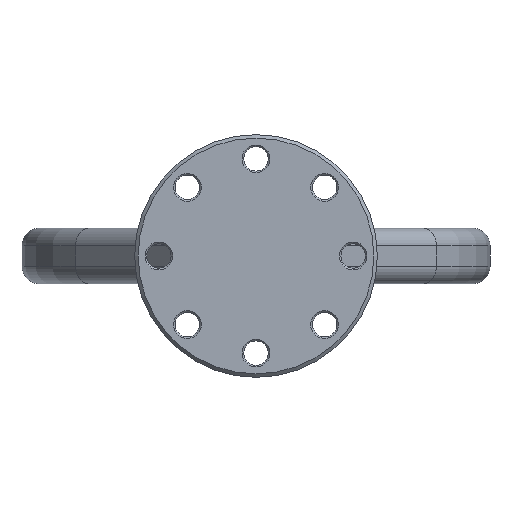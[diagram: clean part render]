
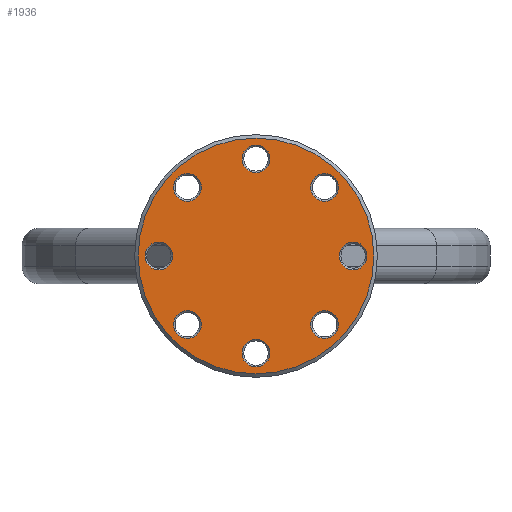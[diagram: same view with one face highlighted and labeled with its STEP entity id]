
A CAD part, front view. The second image highlights one B-rep face of the part: STEP entity #1936.
In plain terms, the highlighted planar face has unit normal (0, -1, 0).
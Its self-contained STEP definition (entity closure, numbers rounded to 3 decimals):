
#68=FACE_BOUND('',#261,.T.);
#69=FACE_BOUND('',#262,.T.);
#70=FACE_BOUND('',#263,.T.);
#71=FACE_BOUND('',#264,.T.);
#72=FACE_BOUND('',#265,.T.);
#73=FACE_BOUND('',#266,.T.);
#74=FACE_BOUND('',#267,.T.);
#75=FACE_BOUND('',#268,.T.);
#97=PLANE('',#2111);
#127=FACE_OUTER_BOUND('',#260,.T.);
#260=EDGE_LOOP('',(#1345));
#261=EDGE_LOOP('',(#1346));
#262=EDGE_LOOP('',(#1347));
#263=EDGE_LOOP('',(#1348));
#264=EDGE_LOOP('',(#1349));
#265=EDGE_LOOP('',(#1350));
#266=EDGE_LOOP('',(#1351));
#267=EDGE_LOOP('',(#1352));
#268=EDGE_LOOP('',(#1353));
#407=CIRCLE('',#2110,4.);
#408=CIRCLE('',#2112,34.);
#409=CIRCLE('',#2113,4.);
#410=CIRCLE('',#2114,4.);
#411=CIRCLE('',#2115,4.);
#412=CIRCLE('',#2116,4.);
#413=CIRCLE('',#2117,4.);
#414=CIRCLE('',#2118,4.);
#415=CIRCLE('',#2119,4.);
#845=VERTEX_POINT('',#3171);
#846=VERTEX_POINT('',#3175);
#847=VERTEX_POINT('',#3177);
#848=VERTEX_POINT('',#3179);
#849=VERTEX_POINT('',#3181);
#850=VERTEX_POINT('',#3183);
#851=VERTEX_POINT('',#3185);
#852=VERTEX_POINT('',#3187);
#853=VERTEX_POINT('',#3189);
#1030=EDGE_CURVE('',#845,#845,#407,.T.);
#1031=EDGE_CURVE('',#846,#846,#408,.T.);
#1032=EDGE_CURVE('',#847,#847,#409,.T.);
#1033=EDGE_CURVE('',#848,#848,#410,.T.);
#1034=EDGE_CURVE('',#849,#849,#411,.T.);
#1035=EDGE_CURVE('',#850,#850,#412,.T.);
#1036=EDGE_CURVE('',#851,#851,#413,.T.);
#1037=EDGE_CURVE('',#852,#852,#414,.T.);
#1038=EDGE_CURVE('',#853,#853,#415,.T.);
#1345=ORIENTED_EDGE('',*,*,#1031,.F.);
#1346=ORIENTED_EDGE('',*,*,#1032,.F.);
#1347=ORIENTED_EDGE('',*,*,#1033,.F.);
#1348=ORIENTED_EDGE('',*,*,#1034,.F.);
#1349=ORIENTED_EDGE('',*,*,#1035,.F.);
#1350=ORIENTED_EDGE('',*,*,#1036,.F.);
#1351=ORIENTED_EDGE('',*,*,#1037,.F.);
#1352=ORIENTED_EDGE('',*,*,#1038,.F.);
#1353=ORIENTED_EDGE('',*,*,#1030,.F.);
#1936=ADVANCED_FACE('',(#127,#68,#69,#70,#71,#72,#73,#74,#75),#97,.F.);
#2110=AXIS2_PLACEMENT_3D('',#3173,#2464,#2465);
#2111=AXIS2_PLACEMENT_3D('',#3174,#2466,#2467);
#2112=AXIS2_PLACEMENT_3D('',#3176,#2468,#2469);
#2113=AXIS2_PLACEMENT_3D('',#3178,#2470,#2471);
#2114=AXIS2_PLACEMENT_3D('',#3180,#2472,#2473);
#2115=AXIS2_PLACEMENT_3D('',#3182,#2474,#2475);
#2116=AXIS2_PLACEMENT_3D('',#3184,#2476,#2477);
#2117=AXIS2_PLACEMENT_3D('',#3186,#2478,#2479);
#2118=AXIS2_PLACEMENT_3D('',#3188,#2480,#2481);
#2119=AXIS2_PLACEMENT_3D('',#3190,#2482,#2483);
#2464=DIRECTION('center_axis',(0.,-1.,0.));
#2465=DIRECTION('ref_axis',(-1.,0.,0.));
#2466=DIRECTION('center_axis',(0.,1.,0.));
#2467=DIRECTION('ref_axis',(0.,0.,1.));
#2468=DIRECTION('center_axis',(0.,1.,0.));
#2469=DIRECTION('ref_axis',(-1.,0.,0.));
#2470=DIRECTION('center_axis',(0.,-1.,0.));
#2471=DIRECTION('ref_axis',(-1.,0.,0.));
#2472=DIRECTION('center_axis',(0.,-1.,0.));
#2473=DIRECTION('ref_axis',(-1.,0.,0.));
#2474=DIRECTION('center_axis',(0.,-1.,0.));
#2475=DIRECTION('ref_axis',(-1.,0.,0.));
#2476=DIRECTION('center_axis',(0.,-1.,0.));
#2477=DIRECTION('ref_axis',(-1.,0.,0.));
#2478=DIRECTION('center_axis',(0.,-1.,0.));
#2479=DIRECTION('ref_axis',(-1.,0.,0.));
#2480=DIRECTION('center_axis',(0.,-1.,0.));
#2481=DIRECTION('ref_axis',(-1.,0.,0.));
#2482=DIRECTION('center_axis',(0.,-1.,0.));
#2483=DIRECTION('ref_axis',(-1.,0.,0.));
#3171=CARTESIAN_POINT('',(32.,-87.442,0.));
#3173=CARTESIAN_POINT('Origin',(28.,-87.442,0.));
#3174=CARTESIAN_POINT('Origin',(0.,-87.442,0.));
#3175=CARTESIAN_POINT('',(34.,-87.442,0.));
#3176=CARTESIAN_POINT('Origin',(0.,-87.442,0.));
#3177=CARTESIAN_POINT('',(4.,-87.442,-28.));
#3178=CARTESIAN_POINT('Origin',(0.,-87.442,-28.));
#3179=CARTESIAN_POINT('',(4.,-87.442,28.));
#3180=CARTESIAN_POINT('Origin',(0.,-87.442,28.));
#3181=CARTESIAN_POINT('',(23.799,-87.442,-19.799));
#3182=CARTESIAN_POINT('Origin',(19.799,-87.442,-19.799));
#3183=CARTESIAN_POINT('',(-15.799,-87.442,19.799));
#3184=CARTESIAN_POINT('Origin',(-19.799,-87.442,19.799));
#3185=CARTESIAN_POINT('',(23.799,-87.442,19.799));
#3186=CARTESIAN_POINT('Origin',(19.799,-87.442,19.799));
#3187=CARTESIAN_POINT('',(-15.799,-87.442,-19.799));
#3188=CARTESIAN_POINT('Origin',(-19.799,-87.442,-19.799));
#3189=CARTESIAN_POINT('',(-24.,-87.442,0.));
#3190=CARTESIAN_POINT('Origin',(-28.,-87.442,0.));
